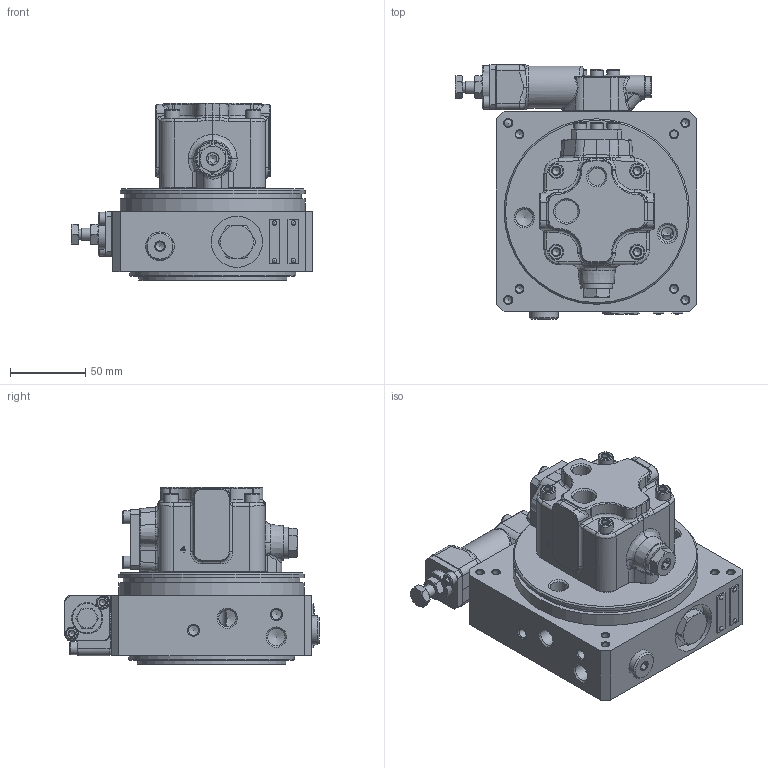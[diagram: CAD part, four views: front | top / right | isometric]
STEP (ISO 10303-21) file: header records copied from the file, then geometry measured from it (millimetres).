
FILE_DESCRIPTION(/* description */ (''),/* implementation_level */ '2;1');
FILE_NAME(/* name */ 'C04 A-S.stp',/* time_stamp */ '2022-11-15T10:51:50+01:00',/* author */ ('marcop'),/* organization */ (''),/* preprocessor_version */ 'ST-DEVELOPER v19.2',/* originating_system */ 'Autodesk Inventor 2023',/* authorisation */ '');
FILE_SCHEMA (('AUTOMOTIVE_DESIGN { 1 0 10303 214 3 1 1 }'));
Products named in the file (1): C04 A-S_Semplifica_1
Bounding box: 160.5 x 169 x 118 mm (x, y, z)
Volume: 1228976.6 mm3; surface area: 135173.7 mm2
Topology: 1 solids, 1 shells, 1169 faces, 2898 edges, 1779 vertices
Faces by surface type: plane 514, cone 215, bspline 211, cylinder 202, torus 17, sphere 10
Full cylindrical faces by diameter (mm): 2 x2, 2.5 x1, 4.917 x8, 5 x3, 5.5 x3, 6 x4, 6.5 x5, 6.647 x6, 8 x2, 8.376 x3, 8.5 x8, 10 x4, 11.445 x5, 12 x1, 14 x3, 14.95 x1, 16 x1, 19 x3, 20 x4, 21 x1, 22 x3, 22.8 x1, 28 x1, 30 x1, 34 x1, 35 x1, 42 x1, 60 x1, 63.5 x1, 98.35 x1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
Entity records: 51994 total; most frequent: CARTESIAN_POINT 24997, ORIENTED_EDGE 5710, DIRECTION 4872, EDGE_CURVE 2855, VERTEX_POINT 1779, AXIS2_PLACEMENT_3D 1773, LINE 1326, VECTOR 1326
